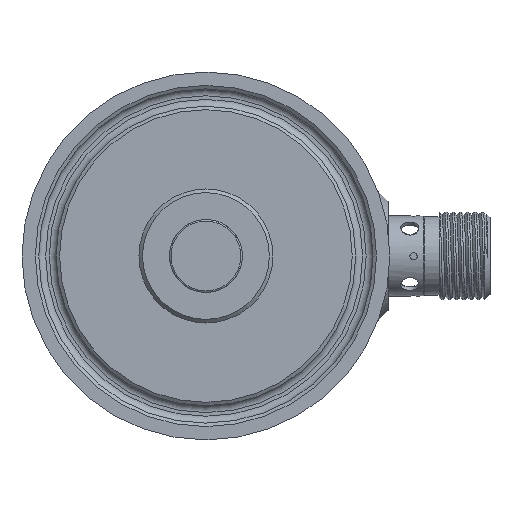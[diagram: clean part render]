
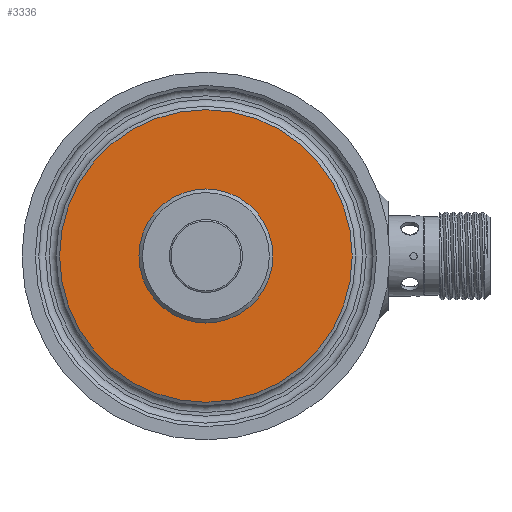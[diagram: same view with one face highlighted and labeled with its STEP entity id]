
A CAD part, front view. The second image highlights one B-rep face of the part: STEP entity #3336.
In plain terms, the highlighted planar face has unit normal (0, -1, 0) as drawn and (0, 0, 1) by its records, which use the part's own axes.
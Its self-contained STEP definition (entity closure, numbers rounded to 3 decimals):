
#7 = VERTEX_POINT ( 'NONE', #14416 ) ;
#204 = ORIENTED_EDGE ( 'NONE', *, *, #3649, .F. ) ;
#1024 = FACE_OUTER_BOUND ( 'NONE', #6915, .T. ) ;
#1414 = AXIS2_PLACEMENT_3D ( 'NONE', #9386, #4466, #7920 ) ;
#2553 = CARTESIAN_POINT ( 'NONE',  ( 0., 0., 5. ) ) ;
#3181 = CARTESIAN_POINT ( 'NONE',  ( 9.2, 0., 5. ) ) ;
#3336 = ADVANCED_FACE ( 'NONE', ( #1024, #6274 ), #8372, .T. ) ;
#3537 = DIRECTION ( 'NONE',  ( 0., 0., 1. ) ) ;
#3649 = EDGE_CURVE ( 'NONE', #6800, #6800, #4524, .T. ) ;
#4466 = DIRECTION ( 'NONE',  ( 0., 0., 1. ) ) ;
#4524 = CIRCLE ( 'NONE', #1414, 9.2 ) ;
#5311 = AXIS2_PLACEMENT_3D ( 'NONE', #2553, #8838, #10211 ) ;
#6274 = FACE_BOUND ( 'NONE', #14367, .T. ) ;
#6800 = VERTEX_POINT ( 'NONE', #3181 ) ;
#6915 = EDGE_LOOP ( 'NONE', ( #14515 ) ) ;
#7356 = EDGE_CURVE ( 'NONE', #7, #7, #13073, .T. ) ;
#7920 = DIRECTION ( 'NONE',  ( 1., 0., 0. ) ) ;
#8372 = PLANE ( 'NONE',  #13544 ) ;
#8838 = DIRECTION ( 'NONE',  ( 0., 0., 1. ) ) ;
#9386 = CARTESIAN_POINT ( 'NONE',  ( 0., 0., 5. ) ) ;
#10211 = DIRECTION ( 'NONE',  ( 1., 0., 0. ) ) ;
#11200 = DIRECTION ( 'NONE',  ( 1., 0., 0. ) ) ;
#13073 = CIRCLE ( 'NONE', #5311, 20.086 ) ;
#13315 = CARTESIAN_POINT ( 'NONE',  ( 0., 0., 5. ) ) ;
#13544 = AXIS2_PLACEMENT_3D ( 'NONE', #13315, #3537, #11200 ) ;
#14367 = EDGE_LOOP ( 'NONE', ( #204 ) ) ;
#14416 = CARTESIAN_POINT ( 'NONE',  ( 20.086, 0., 5. ) ) ;
#14515 = ORIENTED_EDGE ( 'NONE', *, *, #7356, .T. ) ;
